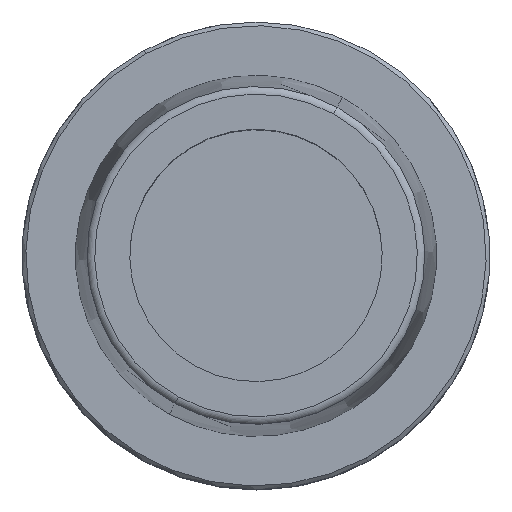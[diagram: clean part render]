
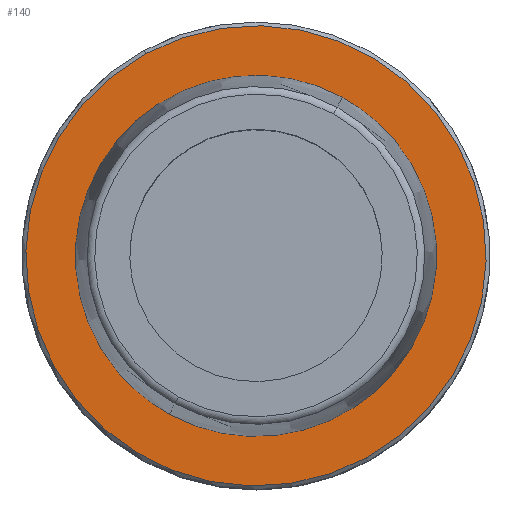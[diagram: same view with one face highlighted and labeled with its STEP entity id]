
A CAD part, top view. The second image highlights one B-rep face of the part: STEP entity #140.
In plain terms, the highlighted planar face has unit normal (0, 0, 1).
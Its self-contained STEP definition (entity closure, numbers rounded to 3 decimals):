
#116=AXIS2_PLACEMENT_3D('Plane Axis2P3D',#113,#114,#115) ;
#120=AXIS2_PLACEMENT_3D('Circle Axis2P3D',#118,#119,$) ;
#129=AXIS2_PLACEMENT_3D('Circle Axis2P3D',#127,#128,$) ;
#43=CARTESIAN_POINT('Vertex',(-11.66,-21.343,0.)) ;
#47=CARTESIAN_POINT('Control Point',(-11.66,-21.343,0.)) ;
#48=CARTESIAN_POINT('Control Point',(-8.125,-23.274,0.)) ;
#49=CARTESIAN_POINT('Control Point',(-4.191,-24.474,0.)) ;
#50=CARTESIAN_POINT('Control Point',(-0.06,-24.83,0.)) ;
#51=CARTESIAN_POINT('Control Point',(8.267,-23.793,0.)) ;
#52=CARTESIAN_POINT('Control Point',(15.476,-19.471,0.)) ;
#53=CARTESIAN_POINT('Control Point',(18.613,-16.499,0.)) ;
#54=CARTESIAN_POINT('Control Point',(23.407,-9.395,0.)) ;
#55=CARTESIAN_POINT('Control Point',(24.854,-0.948,0.)) ;
#56=CARTESIAN_POINT('Control Point',(24.643,3.368,0.)) ;
#57=CARTESIAN_POINT('Control Point',(22.734,10.339,0.)) ;
#58=CARTESIAN_POINT('Control Point',(18.548,16.127,0.)) ;
#59=CARTESIAN_POINT('Control Point',(16.505,18.212,0.)) ;
#60=CARTESIAN_POINT('Control Point',(14.184,19.964,0.)) ;
#61=CARTESIAN_POINT('Control Point',(11.66,21.343,0.)) ;
#62=CARTESIAN_POINT('Vertex',(11.66,21.343,0.)) ;
#90=CARTESIAN_POINT('Control Point',(11.66,21.343,0.)) ;
#91=CARTESIAN_POINT('Control Point',(8.125,23.274,0.)) ;
#92=CARTESIAN_POINT('Control Point',(4.191,24.474,0.)) ;
#93=CARTESIAN_POINT('Control Point',(0.06,24.83,0.)) ;
#94=CARTESIAN_POINT('Control Point',(-8.267,23.793,0.)) ;
#95=CARTESIAN_POINT('Control Point',(-15.476,19.471,0.)) ;
#96=CARTESIAN_POINT('Control Point',(-18.613,16.499,0.)) ;
#97=CARTESIAN_POINT('Control Point',(-23.407,9.395,0.)) ;
#98=CARTESIAN_POINT('Control Point',(-24.854,0.948,0.)) ;
#99=CARTESIAN_POINT('Control Point',(-24.643,-3.368,0.)) ;
#100=CARTESIAN_POINT('Control Point',(-22.734,-10.339,0.)) ;
#101=CARTESIAN_POINT('Control Point',(-18.548,-16.127,0.)) ;
#102=CARTESIAN_POINT('Control Point',(-16.505,-18.212,0.)) ;
#103=CARTESIAN_POINT('Control Point',(-14.184,-19.964,0.)) ;
#104=CARTESIAN_POINT('Control Point',(-11.66,-21.343,0.)) ;
#113=CARTESIAN_POINT('Axis2P3D Location',(0.,24.321,0.)) ;
#118=CARTESIAN_POINT('Axis2P3D Location',(0.,0.,0.)) ;
#122=CARTESIAN_POINT('Vertex',(-14.862,27.205,0.)) ;
#124=CARTESIAN_POINT('Vertex',(14.862,-27.205,0.)) ;
#127=CARTESIAN_POINT('Axis2P3D Location',(0.,0.,0.)) ;
#114=DIRECTION('Axis2P3D Direction',(0.,0.,-1.)) ;
#115=DIRECTION('Axis2P3D XDirection',(1.,0.,0.)) ;
#119=DIRECTION('Axis2P3D Direction',(0.,0.,-1.)) ;
#128=DIRECTION('Axis2P3D Direction',(0.,0.,-1.)) ;
#133=ORIENTED_EDGE('',*,*,#126,.F.) ;
#134=ORIENTED_EDGE('',*,*,#131,.F.) ;
#137=ORIENTED_EDGE('',*,*,#105,.F.) ;
#138=ORIENTED_EDGE('',*,*,#64,.F.) ;
#139=FACE_BOUND('',#136,.T.) ;
#140=ADVANCED_FACE('NOCUT',(#135,#139),#117,.F.) ;
#46=B_SPLINE_CURVE_WITH_KNOTS('',5,(#47,#48,#49,#50,#51,#52,#53,#54,#55,#56,#57,#58,#59,#60,#61),.UNSPECIFIED.,.F.,.U.,(6,3,3,3,6),(323.349,408.571,497.203,585.834,646.698),.UNSPECIFIED.) ;
#89=B_SPLINE_CURVE_WITH_KNOTS('',5,(#90,#91,#92,#93,#94,#95,#96,#97,#98,#99,#100,#101,#102,#103,#104),.UNSPECIFIED.,.F.,.U.,(6,3,3,3,6),(0.,85.222,173.854,262.485,323.349),.UNSPECIFIED.) ;
#121=CIRCLE('generated circle',#120,31.) ;
#130=CIRCLE('generated circle',#129,31.) ;
#64=EDGE_CURVE('',#44,#63,#46,.T.) ;
#105=EDGE_CURVE('',#63,#44,#89,.T.) ;
#126=EDGE_CURVE('',#123,#125,#121,.T.) ;
#131=EDGE_CURVE('',#125,#123,#130,.T.) ;
#132=EDGE_LOOP('',(#133,#134)) ;
#136=EDGE_LOOP('',(#137,#138)) ;
#135=FACE_OUTER_BOUND('',#132,.T.) ;
#117=PLANE('',#116) ;
#44=VERTEX_POINT('',#43) ;
#63=VERTEX_POINT('',#62) ;
#123=VERTEX_POINT('',#122) ;
#125=VERTEX_POINT('',#124) ;
